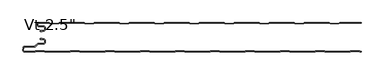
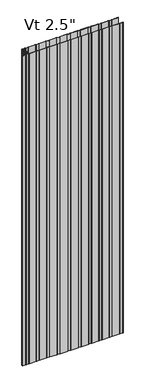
"""IFC4 building model written with IfcOpenShell, lengths in millimetres: plate geometry."""

from ifc_helpers import new_model, si_unit, point, frame, frame_2d, origin, origin_with_axes, place, context, project, spatial, polyline, circle_curve, trimmed, segment, composite_curve, outline, extrude, source, transform, mapped, element, save
from ifc_brep_helpers import plane_surface, cylinder_surface, revolved_surface, advanced_brep


def plate_cdc928b4(model_context):
    return source(origin(), model_context, "Body", "SolidModel", [
        advanced_brep(
        [(-346.968691, -17.0015202, 2400.0), (-347.9686883, -18.0015234, 2400.0), (-346.968691, -19.0015147, 2400.0), (-342.9684874, -19.0015147, 2400.0), (-342.9684874, -18.0015202, 2400.0), (-340.2762776, -18.0015202, 2400.0), (-336.9762819, -14.7015245, 2400.0), (-336.9762819, -10.3015333, 2400.0), (-340.2762774, -7.0015378, 2400.0), (-350.6962563, -7.0015378, 2400.0), (-352.4662505, -5.2315436, 2400.0), (-352.4662505, -0.9999959, 2400.0), (-327.9659738, -0.9999959, 2400.0), (-326.5803312, -2.200235, 2400.0), (-307.2051649, -2.200235, 2400.0), (-305.819532, -1.0000043, 2400.0), (-251.7661166, -1.0000043, 2400.0), (-250.3804836, -2.200235, 2400.0), (-231.0053173, -2.200235, 2400.0), (-229.6196844, -1.0000043, 2400.0), (-175.566269, -1.0000043, 2400.0), (-174.180636, -2.200235, 2400.0), (-154.8054697, -2.200235, 2400.0), (-153.4198368, -1.0000043, 2400.0), (-99.3664214, -1.0000043, 2400.0), (-97.9807884, -2.200235, 2400.0), (-78.6056221, -2.200235, 2400.0), (-77.2199892, -1.0000043, 2400.0), (-23.1665738, -1.0000043, 2400.0), (-21.7809408, -2.200235, 2400.0), (-2.4057745, -2.200235, 2400.0), (-1.0201416, -1.0000043, 2400.0), (53.0332738, -1.0000043, 2400.0), (54.4189068, -2.200235, 2400.0), (73.7940731, -2.200235, 2400.0), (75.179706, -1.0000043, 2400.0), (129.2331214, -1.0000043, 2400.0), (130.6187544, -2.200235, 2400.0), (149.9939207, -2.200235, 2400.0), (151.3795536, -1.0000043, 2400.0), (205.432969, -1.0000043, 2400.0), (206.818602, -2.200235, 2400.0), (226.1937683, -2.200235, 2400.0), (227.5794012, -1.0000043, 2400.0), (281.6328166, -1.0000043, 2400.0), (283.0184496, -2.200235, 2400.0), (302.3936159, -2.200235, 2400.0), (303.7792488, -1.0000043, 2400.0), (350.4999998, -1.0000043, 2400.0), (350.4999998, -4.3e-06, 2400.0), (303.9284, -4.3e-06, 2400.0), (303.0117831, -0.3417928, 2400.0), (302.0207355, -1.200235, 2400.0), (283.39133, -1.200235, 2400.0), (282.4002824, -0.3417928, 2400.0), (281.4836655, -4.3e-06, 2400.0), (227.7285524, -4.3e-06, 2400.0), (226.8119355, -0.3417928, 2400.0), (225.8208879, -1.200235, 2400.0), (207.1914824, -1.200235, 2400.0), (206.2004348, -0.3417928, 2400.0), (205.2838179, -4.3e-06, 2400.0), (151.5287048, -4.3e-06, 2400.0), (150.6120879, -0.3417928, 2400.0), (149.6210403, -1.200235, 2400.0), (130.9916348, -1.200235, 2400.0), (130.0005872, -0.3417928, 2400.0), (129.0839703, -4.3e-06, 2400.0), (75.3288572, -4.3e-06, 2400.0), (74.4122403, -0.3417928, 2400.0), (73.4211927, -1.200235, 2400.0), (54.7917872, -1.200235, 2400.0), (53.8007396, -0.3417928, 2400.0), (52.8841227, -4.3e-06, 2400.0), (-0.8709904, -4.3e-06, 2400.0), (-1.7876073, -0.3417928, 2400.0), (-2.7786549, -1.200235, 2400.0), (-21.4080604, -1.200235, 2400.0), (-22.399108, -0.3417928, 2400.0), (-23.3157249, -4.3e-06, 2400.0), (-77.070838, -4.3e-06, 2400.0), (-77.9874549, -0.3417928, 2400.0), (-78.9785025, -1.200235, 2400.0), (-97.607908, -1.200235, 2400.0), (-98.5989556, -0.3417928, 2400.0), (-99.5155725, -4.3e-06, 2400.0), (-153.2706856, -4.3e-06, 2400.0), (-154.1873025, -0.3417928, 2400.0), (-155.1783501, -1.200235, 2400.0), (-173.8077556, -1.200235, 2400.0), (-174.7988032, -0.3417928, 2400.0), (-175.7154201, -4.3e-06, 2400.0), (-229.4705332, -4.3e-06, 2400.0), (-230.3871501, -0.3417928, 2400.0), (-231.3781977, -1.200235, 2400.0), (-250.0076032, -1.200235, 2400.0), (-250.9986508, -0.3417928, 2400.0), (-251.9152677, -4.3e-06, 2400.0), (-305.6703808, -4.3e-06, 2400.0), (-306.5869977, -0.3417928, 2400.0), (-307.5780453, -1.200235, 2400.0), (-326.2074508, -1.200235, 2400.0), (-327.1984984, -0.3417928, 2400.0), (-328.1152067, -4.3e-06, 2400.0), (-352.0662543, 4.1e-06, 2400.0), (-353.4662505, -1.3999921, 2400.0), (-353.4662505, -5.2315436, 2400.0), (-350.6962563, -8.0015378, 2400.0), (-340.2762774, -8.0015378, 2400.0), (-337.9762819, -10.3015333, 2400.0), (-337.9762819, -14.7015245, 2400.0), (-340.2762776, -17.0015202, 2400.0), (-346.968691, -17.0015202, 0.0), (-340.2762776, -17.0015202, 0.0), (-337.9762819, -14.7015245, 0.0), (-337.9762819, -10.3015333, 0.0), (-340.2762774, -8.0015378, 0.0), (-350.6962563, -8.0015378, 0.0), (-353.4662505, -5.2315436, 0.0), (-353.4662505, -1.3999921, 0.0), (-352.0662543, 4.1e-06, 0.0), (-328.1151153, 4.1e-06, 0.0), (-327.1984984, -0.3417928, 0.0), (-326.2074508, -1.200235, 0.0), (-307.5780453, -1.200235, 0.0), (-306.5869977, -0.3417928, 0.0), (-305.6703808, -4.3e-06, 0.0), (-251.9152677, -4.3e-06, 0.0), (-250.9986508, -0.3417928, 0.0), (-250.0076032, -1.200235, 0.0), (-231.3781977, -1.200235, 0.0), (-230.3871501, -0.3417928, 0.0), (-229.4705332, -4.3e-06, 0.0), (-175.7154201, -4.3e-06, 0.0), (-174.7988032, -0.3417928, 0.0), (-173.8077556, -1.200235, 0.0), (-155.1783501, -1.200235, 0.0), (-154.1873025, -0.3417928, 0.0), (-153.2706856, -4.3e-06, 0.0), (-99.5155725, -4.3e-06, 0.0), (-98.5989556, -0.3417928, 0.0), (-97.607908, -1.200235, 0.0), (-78.9785025, -1.200235, 0.0), (-77.9874549, -0.3417928, 0.0), (-77.070838, -4.3e-06, 0.0), (-23.3157249, -4.3e-06, 0.0), (-22.399108, -0.3417928, 0.0), (-21.4080604, -1.200235, 0.0), (-2.7786549, -1.200235, 0.0), (-1.7876073, -0.3417928, 0.0), (-0.8709904, -4.3e-06, 0.0), (52.8841227, -4.3e-06, 0.0), (53.8007396, -0.3417928, 0.0), (54.7917872, -1.200235, 0.0), (73.4211927, -1.200235, 0.0), (74.4122403, -0.3417928, 0.0), (75.3288572, -4.3e-06, 0.0), (129.0839703, -4.3e-06, 0.0), (130.0005872, -0.3417928, 0.0), (130.9916348, -1.200235, 0.0), (149.6210403, -1.200235, 0.0), (150.6120879, -0.3417928, 0.0), (151.5287048, -4.3e-06, 0.0), (205.2838179, -4.3e-06, 0.0), (206.2004348, -0.3417928, 0.0), (207.1914824, -1.200235, 0.0), (225.8208879, -1.200235, 0.0), (226.8119355, -0.3417928, 0.0), (227.7285524, -4.3e-06, 0.0), (281.4836655, -4.3e-06, 0.0), (282.4002824, -0.3417928, 0.0), (283.39133, -1.200235, 0.0), (302.0207355, -1.200235, 0.0), (303.0117831, -0.3417928, 0.0), (303.9284, -4.3e-06, 0.0), (350.4999998, -4.3e-06, 0.0), (350.4999998, -1.0000043, 0.0), (303.7792488, -1.0000043, 0.0), (302.3936159, -2.200235, 0.0), (283.0184496, -2.200235, 0.0), (281.6328166, -1.0000043, 0.0), (227.5794012, -1.0000043, 0.0), (226.1937683, -2.200235, 0.0), (206.818602, -2.200235, 0.0), (205.432969, -1.0000043, 0.0), (151.3795536, -1.0000043, 0.0), (149.9939207, -2.200235, 0.0), (130.6187544, -2.200235, 0.0), (129.2331214, -1.0000043, 0.0), (75.179706, -1.0000043, 0.0), (73.7940731, -2.200235, 0.0), (54.4189068, -2.200235, 0.0), (53.0332738, -1.0000043, 0.0), (-1.0201416, -1.0000043, 0.0), (-2.4057745, -2.200235, 0.0), (-21.7809408, -2.200235, 0.0), (-23.1665738, -1.0000043, 0.0), (-77.2199892, -1.0000043, 0.0), (-78.6056221, -2.200235, 0.0), (-97.9807884, -2.200235, 0.0), (-99.3664214, -1.0000043, 0.0), (-153.4198368, -1.0000043, 0.0), (-154.8054697, -2.200235, 0.0), (-174.180636, -2.200235, 0.0), (-175.566269, -1.0000043, 0.0), (-229.6196844, -1.0000043, 0.0), (-231.0053173, -2.200235, 0.0), (-250.3804836, -2.200235, 0.0), (-251.7661166, -1.0000043, 0.0), (-305.819532, -1.0000043, 0.0), (-307.2051649, -2.200235, 0.0), (-326.5803312, -2.200235, 0.0), (-327.9659738, -0.9999959, 0.0), (-352.4662505, -0.9999959, 0.0), (-352.4662505, -5.2315436, 0.0), (-350.6962563, -7.0015378, 0.0), (-340.2762774, -7.0015378, 0.0), (-336.9762819, -10.3015333, 0.0), (-336.9762819, -14.7015245, 0.0), (-340.2762776, -18.0015202, 0.0), (-342.9684874, -18.0015202, 0.0), (-342.9684874, -19.0015147, 0.0), (-346.968691, -19.0015147, 0.0), (-347.9686882, -18.0015235, 0.0)],
        [
            (0, 1, circle_curve(frame((-346.968691, -18.0015175, 2400.0), z_axis=(0.0, 0.0, 1.0), x_axis=(1.0, 0.0, 0.0)), 0.9999973)),
            (1, 2, circle_curve(frame((-346.968691, -18.0015175, 2400.0), z_axis=(0.0, 0.0, 1.0), x_axis=(1.0, 0.0, 0.0)), 0.9999972)),
            (2, 3),
            (3, 4),
            (4, 5),
            (5, 6, circle_curve(frame((-340.2762776, -14.7015245, 2400.0), z_axis=(0.0, 0.0, 1.0), x_axis=(1.0, 0.0, 0.0)), 3.2999957)),
            (6, 7),
            (7, 8, circle_curve(frame((-340.2762774, -10.3015333, 2400.0), z_axis=(0.0, 0.0, 1.0), x_axis=(1.0, 0.0, 0.0)), 3.2999955)),
            (8, 9),
            (9, 10, circle_curve(frame((-350.6962563, -5.2315436, 2400.0), z_axis=(0.0, 0.0, -1.0), x_axis=(1.0, 0.0, 0.0)), 1.7699942)),
            (10, 11),
            (11, 12),
            (12, 13),
            (13, 14),
            (14, 15),
            (15, 16),
            (16, 17),
            (17, 18),
            (18, 19),
            (19, 20),
            (20, 21),
            (21, 22),
            (22, 23),
            (23, 24),
            (24, 25),
            (25, 26),
            (26, 27),
            (27, 28),
            (28, 29),
            (29, 30),
            (30, 31),
            (31, 32),
            (32, 33),
            (33, 34),
            (34, 35),
            (35, 36),
            (36, 37),
            (37, 38),
            (38, 39),
            (39, 40),
            (40, 41),
            (41, 42),
            (42, 43),
            (43, 44),
            (44, 45),
            (45, 46),
            (46, 47),
            (47, 48),
            (48, 49),
            (49, 50),
            (50, 51, circle_curve(frame((303.9284, -1.4000015, 2400.0), z_axis=(0.0, 0.0, 1.0), x_axis=(1.0, 0.0, 0.0)), 1.3999972)),
            (51, 52),
            (52, 53),
            (53, 54),
            (54, 55, circle_curve(frame((281.4836655, -1.4000015, 2400.0), z_axis=(0.0, 0.0, 1.0), x_axis=(1.0, 0.0, 0.0)), 1.3999972)),
            (55, 56),
            (56, 57, circle_curve(frame((227.7285524, -1.4000015, 2400.0), z_axis=(0.0, 0.0, 1.0), x_axis=(1.0, 0.0, 0.0)), 1.3999972)),
            (57, 58),
            (58, 59),
            (59, 60),
            (60, 61, circle_curve(frame((205.2838179, -1.4000015, 2400.0), z_axis=(0.0, 0.0, 1.0), x_axis=(1.0, 0.0, 0.0)), 1.3999972)),
            (61, 62),
            (62, 63, circle_curve(frame((151.5287048, -1.4000015, 2400.0), z_axis=(0.0, 0.0, 1.0), x_axis=(1.0, 0.0, 0.0)), 1.3999972)),
            (63, 64),
            (64, 65),
            (65, 66),
            (66, 67, circle_curve(frame((129.0839703, -1.4000015, 2400.0), z_axis=(0.0, 0.0, 1.0), x_axis=(1.0, 0.0, 0.0)), 1.3999972)),
            (67, 68),
            (68, 69, circle_curve(frame((75.3288572, -1.4000015, 2400.0), z_axis=(0.0, 0.0, 1.0), x_axis=(1.0, 0.0, 0.0)), 1.3999972)),
            (69, 70),
            (70, 71),
            (71, 72),
            (72, 73, circle_curve(frame((52.8841227, -1.4000015, 2400.0), z_axis=(0.0, 0.0, 1.0), x_axis=(1.0, 0.0, 0.0)), 1.3999972)),
            (73, 74),
            (74, 75, circle_curve(frame((-0.8709904, -1.4000015, 2400.0), z_axis=(0.0, 0.0, 1.0), x_axis=(1.0, 0.0, 0.0)), 1.3999972)),
            (75, 76),
            (76, 77),
            (77, 78),
            (78, 79, circle_curve(frame((-23.3157249, -1.4000015, 2400.0), z_axis=(0.0, 0.0, 1.0), x_axis=(1.0, 0.0, 0.0)), 1.3999972)),
            (79, 80),
            (80, 81, circle_curve(frame((-77.070838, -1.4000015, 2400.0), z_axis=(0.0, 0.0, 1.0), x_axis=(1.0, 0.0, 0.0)), 1.3999972)),
            (81, 82),
            (82, 83),
            (83, 84),
            (84, 85, circle_curve(frame((-99.5155725, -1.4000015, 2400.0), z_axis=(0.0, 0.0, 1.0), x_axis=(1.0, 0.0, 0.0)), 1.3999972)),
            (85, 86),
            (86, 87, circle_curve(frame((-153.2706856, -1.4000015, 2400.0), z_axis=(0.0, 0.0, 1.0), x_axis=(1.0, 0.0, 0.0)), 1.3999972)),
            (87, 88),
            (88, 89),
            (89, 90),
            (90, 91, circle_curve(frame((-175.7154201, -1.4000015, 2400.0), z_axis=(0.0, 0.0, 1.0), x_axis=(1.0, 0.0, 0.0)), 1.3999972)),
            (91, 92),
            (92, 93, circle_curve(frame((-229.4705332, -1.4000015, 2400.0), z_axis=(0.0, 0.0, 1.0), x_axis=(1.0, 0.0, 0.0)), 1.3999972)),
            (93, 94),
            (94, 95),
            (95, 96),
            (96, 97, circle_curve(frame((-251.9152677, -1.4000015, 2400.0), z_axis=(0.0, 0.0, 1.0), x_axis=(1.0, 0.0, 0.0)), 1.3999972)),
            (97, 98),
            (98, 99, circle_curve(frame((-305.6703808, -1.4000015, 2400.0), z_axis=(0.0, 0.0, 1.0), x_axis=(1.0, 0.0, 0.0)), 1.3999972)),
            (99, 100),
            (100, 101),
            (101, 102),
            (102, 103, circle_curve(frame((-328.1151153, -1.4000015, 2400.0), z_axis=(0.0, 0.0, 1.0), x_axis=(1.0, 0.0, 0.0)), 1.3999972)),
            (103, 104),
            (104, 105, circle_curve(frame((-352.0662543, -1.3999921, 2400.0), z_axis=(0.0, 0.0, 1.0), x_axis=(1.0, 0.0, 0.0)), 1.3999962)),
            (105, 106),
            (106, 107, circle_curve(frame((-350.6962563, -5.2315436, 2400.0), z_axis=(0.0, 0.0, 1.0), x_axis=(1.0, 0.0, 0.0)), 2.7699942)),
            (107, 108),
            (108, 109, circle_curve(frame((-340.2762774, -10.3015333, 2400.0), z_axis=(0.0, 0.0, -1.0), x_axis=(1.0, 0.0, 0.0)), 2.2999955)),
            (109, 110),
            (110, 111, circle_curve(frame((-340.2762776, -14.7015245, 2400.0), z_axis=(0.0, 0.0, -1.0), x_axis=(1.0, 0.0, 0.0)), 2.2999957)),
            (111, 0),
            (112, 113),
            (113, 114, circle_curve(frame((-340.2762776, -14.7015245, 0.0), z_axis=(0.0, 0.0, 1.0), x_axis=(1.0, 0.0, 0.0)), 2.2999957)),
            (114, 115),
            (115, 116, circle_curve(frame((-340.2762774, -10.3015333, 0.0), z_axis=(0.0, 0.0, 1.0), x_axis=(1.0, 0.0, 0.0)), 2.2999955)),
            (116, 117),
            (117, 118, circle_curve(frame((-350.6962563, -5.2315436, 0.0), z_axis=(0.0, 0.0, -1.0), x_axis=(1.0, 0.0, 0.0)), 2.7699942)),
            (118, 119),
            (119, 120, circle_curve(frame((-352.0662543, -1.3999921, 0.0), z_axis=(0.0, 0.0, -1.0), x_axis=(1.0, 0.0, 0.0)), 1.3999962)),
            (120, 121),
            (121, 122, circle_curve(frame((-328.1151153, -1.4000015, 0.0), z_axis=(0.0, 0.0, -1.0), x_axis=(1.0, 0.0, 0.0)), 1.3999972)),
            (122, 123),
            (123, 124),
            (124, 125),
            (125, 126, circle_curve(frame((-305.6703808, -1.4000015, 0.0), z_axis=(0.0, 0.0, -1.0), x_axis=(1.0, 0.0, 0.0)), 1.3999972)),
            (126, 127),
            (127, 128, circle_curve(frame((-251.9152677, -1.4000015, 0.0), z_axis=(0.0, 0.0, -1.0), x_axis=(1.0, 0.0, 0.0)), 1.3999972)),
            (128, 129),
            (129, 130),
            (130, 131),
            (131, 132, circle_curve(frame((-229.4705332, -1.4000015, 0.0), z_axis=(0.0, 0.0, -1.0), x_axis=(1.0, 0.0, 0.0)), 1.3999972)),
            (132, 133),
            (133, 134, circle_curve(frame((-175.7154201, -1.4000015, 0.0), z_axis=(0.0, 0.0, -1.0), x_axis=(1.0, 0.0, 0.0)), 1.3999972)),
            (134, 135),
            (135, 136),
            (136, 137),
            (137, 138, circle_curve(frame((-153.2706856, -1.4000015, 0.0), z_axis=(0.0, 0.0, -1.0), x_axis=(1.0, 0.0, 0.0)), 1.3999972)),
            (138, 139),
            (139, 140, circle_curve(frame((-99.5155725, -1.4000015, 0.0), z_axis=(0.0, 0.0, -1.0), x_axis=(1.0, 0.0, 0.0)), 1.3999972)),
            (140, 141),
            (141, 142),
            (142, 143),
            (143, 144, circle_curve(frame((-77.070838, -1.4000015, 0.0), z_axis=(0.0, 0.0, -1.0), x_axis=(1.0, 0.0, 0.0)), 1.3999972)),
            (144, 145),
            (145, 146, circle_curve(frame((-23.3157249, -1.4000015, 0.0), z_axis=(0.0, 0.0, -1.0), x_axis=(1.0, 0.0, 0.0)), 1.3999972)),
            (146, 147),
            (147, 148),
            (148, 149),
            (149, 150, circle_curve(frame((-0.8709904, -1.4000015, 0.0), z_axis=(0.0, 0.0, -1.0), x_axis=(1.0, 0.0, 0.0)), 1.3999972)),
            (150, 151),
            (151, 152, circle_curve(frame((52.8841227, -1.4000015, 0.0), z_axis=(0.0, 0.0, -1.0), x_axis=(1.0, 0.0, 0.0)), 1.3999972)),
            (152, 153),
            (153, 154),
            (154, 155),
            (155, 156, circle_curve(frame((75.3288572, -1.4000015, 0.0), z_axis=(0.0, 0.0, -1.0), x_axis=(1.0, 0.0, 0.0)), 1.3999972)),
            (156, 157),
            (157, 158, circle_curve(frame((129.0839703, -1.4000015, 0.0), z_axis=(0.0, 0.0, -1.0), x_axis=(1.0, 0.0, 0.0)), 1.3999972)),
            (158, 159),
            (159, 160),
            (160, 161),
            (161, 162, circle_curve(frame((151.5287048, -1.4000015, 0.0), z_axis=(0.0, 0.0, -1.0), x_axis=(1.0, 0.0, 0.0)), 1.3999972)),
            (162, 163),
            (163, 164, circle_curve(frame((205.2838179, -1.4000015, 0.0), z_axis=(0.0, 0.0, -1.0), x_axis=(1.0, 0.0, 0.0)), 1.3999972)),
            (164, 165),
            (165, 166),
            (166, 167),
            (167, 168, circle_curve(frame((227.7285524, -1.4000015, 0.0), z_axis=(0.0, 0.0, -1.0), x_axis=(1.0, 0.0, 0.0)), 1.3999972)),
            (168, 169),
            (169, 170, circle_curve(frame((281.4836655, -1.4000015, 0.0), z_axis=(0.0, 0.0, -1.0), x_axis=(1.0, 0.0, 0.0)), 1.3999972)),
            (170, 171),
            (171, 172),
            (172, 173),
            (173, 174, circle_curve(frame((303.9284, -1.4000015, 0.0), z_axis=(0.0, 0.0, -1.0), x_axis=(1.0, 0.0, 0.0)), 1.3999972)),
            (174, 175),
            (175, 176),
            (176, 177),
            (177, 178),
            (178, 179),
            (179, 180),
            (180, 181),
            (181, 182),
            (182, 183),
            (183, 184),
            (184, 185),
            (185, 186),
            (186, 187),
            (187, 188),
            (188, 189),
            (189, 190),
            (190, 191),
            (191, 192),
            (192, 193),
            (193, 194),
            (194, 195),
            (195, 196),
            (196, 197),
            (197, 198),
            (198, 199),
            (199, 200),
            (200, 201),
            (201, 202),
            (202, 203),
            (203, 204),
            (204, 205),
            (205, 206),
            (206, 207),
            (207, 208),
            (208, 209),
            (209, 210),
            (210, 211),
            (211, 212),
            (212, 213),
            (213, 214),
            (214, 215, circle_curve(frame((-350.6962563, -5.2315436, 0.0), z_axis=(0.0, 0.0, 1.0), x_axis=(1.0, 0.0, 0.0)), 1.7699942)),
            (215, 216),
            (216, 217, circle_curve(frame((-340.2762774, -10.3015333, 0.0), z_axis=(0.0, 0.0, -1.0), x_axis=(1.0, 0.0, 0.0)), 3.2999955)),
            (217, 218),
            (218, 219, circle_curve(frame((-340.2762776, -14.7015245, 0.0), z_axis=(0.0, 0.0, -1.0), x_axis=(1.0, 0.0, 0.0)), 3.2999957)),
            (219, 220),
            (220, 221),
            (221, 222),
            (222, 223, circle_curve(frame((-346.968691, -18.0015175, 0.0), z_axis=(0.0, 0.0, -1.0), x_axis=(1.0, 0.0, 0.0)), 0.9999972)),
            (223, 112, circle_curve(frame((-346.968691, -18.0015175, 0.0), z_axis=(0.0, 0.0, -1.0), x_axis=(1.0, 0.0, 0.0)), 0.9999973)),
            (111, 113),
            (112, 0),
            (110, 114),
            (109, 115),
            (108, 116),
            (107, 117),
            (106, 118),
            (105, 119),
            (104, 120),
            (103, 121),
            (102, 122),
            (101, 123),
            (100, 124),
            (99, 125),
            (98, 126),
            (97, 127),
            (96, 128),
            (95, 129),
            (94, 130),
            (93, 131),
            (92, 132),
            (91, 133),
            (90, 134),
            (89, 135),
            (88, 136),
            (87, 137),
            (86, 138),
            (85, 139),
            (84, 140),
            (83, 141),
            (82, 142),
            (81, 143),
            (80, 144),
            (79, 145),
            (78, 146),
            (77, 147),
            (76, 148),
            (75, 149),
            (74, 150),
            (73, 151),
            (72, 152),
            (71, 153),
            (70, 154),
            (69, 155),
            (68, 156),
            (67, 157),
            (66, 158),
            (65, 159),
            (64, 160),
            (63, 161),
            (62, 162),
            (61, 163),
            (39, 185),
            (184, 40),
            (38, 186),
            (37, 187),
            (36, 188),
            (35, 189),
            (34, 190),
            (33, 191),
            (32, 192),
            (31, 193),
            (30, 194),
            (29, 195),
            (28, 196),
            (27, 197),
            (26, 198),
            (25, 199),
            (24, 200),
            (23, 201),
            (22, 202),
            (21, 203),
            (20, 204),
            (19, 205),
            (18, 206),
            (17, 207),
            (16, 208),
            (15, 209),
            (14, 210),
            (13, 211),
            (12, 212),
            (11, 213),
            (10, 214),
            (9, 215),
            (8, 216),
            (7, 217),
            (6, 218),
            (5, 219),
            (4, 220),
            (3, 221),
            (2, 222),
            (1, 223),
            (48, 176),
            (175, 49),
            (60, 164),
            (59, 165),
            (58, 166),
            (57, 167),
            (56, 168),
            (55, 169),
            (54, 170),
            (53, 171),
            (52, 172),
            (51, 173),
            (50, 174),
            (47, 177),
            (46, 178),
            (45, 179),
            (44, 180),
            (43, 181),
            (42, 182),
            (41, 183),
        ],
        [
            plane_surface(frame((32.0000002, -4.3e-06, 2400.0), z_axis=(0.0, 0.0, 1.0), x_axis=(0.0, 1.0, 0.0))),
            plane_surface(frame((32.0000002, -4.3e-06, 0.0), z_axis=(0.0, 0.0, -1.0), x_axis=(0.0, 1.0, 0.0))),
            plane_surface(frame((-346.968691, -17.0015202, 2400.0), z_axis=(0.0, 1.0, 0.0), x_axis=(0.0, 0.0, -1.0))),
            revolved_surface(polyline([(-337.9762819, -14.7015245, 0.0), (-337.9762819, -14.7015245, 2400.0)]), (-340.2762776, -14.7015245, 2400.0), (0.0, 0.0, -1.0)),
            plane_surface(frame((-337.9762819, -14.7015245, 2400.0), z_axis=(-1.0, 0.0, 0.0), x_axis=(0.0, 0.0, -1.0))),
            revolved_surface(polyline([(-337.9762819, -10.3015333, 0.0), (-337.9762819, -10.3015333, 2400.0)]), (-340.2762774, -10.3015333, 2400.0), (0.0, 0.0, -1.0)),
            plane_surface(frame((-340.2762774, -8.0015378, 2400.0), z_axis=(0.0, -1.0, 0.0), x_axis=(0.0, 0.0, -1.0))),
            cylinder_surface(frame((-350.6962563, -5.2315436, 2400.0), z_axis=(0.0, 0.0, 1.0), x_axis=(1.0, 0.0, 0.0)), 2.7699942),
            plane_surface(frame((-353.4662505, -5.2315436, 2400.0), z_axis=(-1.0, 0.0, 0.0), x_axis=(0.0, 0.0, -1.0))),
            cylinder_surface(frame((-352.0662543, -1.3999921, 2400.0), z_axis=(0.0, 0.0, 1.0), x_axis=(1.0, 0.0, 0.0)), 1.3999962),
            plane_surface(frame((-352.0662543, 4.1e-06, 2400.0), z_axis=(0.0, 1.0, 0.0), x_axis=(0.0, 0.0, -1.0))),
            cylinder_surface(frame((-328.1151153, -1.4000015, 2400.0), z_axis=(0.0, 0.0, 1.0), x_axis=(1.0, 0.0, 0.0)), 1.3999972),
            plane_surface(frame((-327.1984984, -0.3417928, 2400.0), z_axis=(0.6547276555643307, 0.7558648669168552, 0.0), x_axis=(0.0, 0.0, -1.0))),
            plane_surface(frame((-316.8927481, -1.200235, 2400.0), z_axis=(0.0, 1.0, 0.0), x_axis=(0.0, 0.0, -1.0))),
            plane_surface(frame((-307.5780453, -1.200235, 2400.0), z_axis=(-0.6547276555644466, 0.7558648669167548, 0.0), x_axis=(0.0, 0.0, -1.0))),
            cylinder_surface(frame((-305.6703808, -1.4000015, 2400.0), z_axis=(0.0, 0.0, 1.0), x_axis=(1.0, 0.0, 0.0)), 1.3999972),
            plane_surface(frame((-305.6703808, -4.3e-06, 2400.0), z_axis=(0.0, 1.0, 0.0), x_axis=(0.0, 0.0, -1.0))),
            cylinder_surface(frame((-251.9152677, -1.4000015, 2400.0), z_axis=(0.0, 0.0, 1.0), x_axis=(1.0, 0.0, 0.0)), 1.3999972),
            plane_surface(frame((-250.9986508, -0.3417928, 2400.0), z_axis=(0.6547276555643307, 0.7558648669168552, 0.0), x_axis=(0.0, 0.0, -1.0))),
            plane_surface(frame((-240.6929005, -1.200235, 2400.0), z_axis=(0.0, 1.0, 0.0), x_axis=(0.0, 0.0, -1.0))),
            plane_surface(frame((-231.3781977, -1.200235, 2400.0), z_axis=(-0.6547276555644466, 0.7558648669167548, 0.0), x_axis=(0.0, 0.0, -1.0))),
            cylinder_surface(frame((-229.4705332, -1.4000015, 2400.0), z_axis=(0.0, 0.0, 1.0), x_axis=(1.0, 0.0, 0.0)), 1.3999972),
            plane_surface(frame((-229.4705332, -4.3e-06, 2400.0), z_axis=(0.0, 1.0, 0.0), x_axis=(0.0, 0.0, -1.0))),
            cylinder_surface(frame((-175.7154201, -1.4000015, 2400.0), z_axis=(0.0, 0.0, 1.0), x_axis=(1.0, 0.0, 0.0)), 1.3999972),
            plane_surface(frame((-174.7988032, -0.3417928, 2400.0), z_axis=(0.6547276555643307, 0.7558648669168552, 0.0), x_axis=(0.0, 0.0, -1.0))),
            plane_surface(frame((-164.4930529, -1.200235, 2400.0), z_axis=(0.0, 1.0, 0.0), x_axis=(0.0, 0.0, -1.0))),
            plane_surface(frame((-155.1783501, -1.200235, 2400.0), z_axis=(-0.6547276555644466, 0.7558648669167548, 0.0), x_axis=(0.0, 0.0, -1.0))),
            cylinder_surface(frame((-153.2706856, -1.4000015, 2400.0), z_axis=(0.0, 0.0, 1.0), x_axis=(1.0, 0.0, 0.0)), 1.3999972),
            plane_surface(frame((-153.2706856, -4.3e-06, 2400.0), z_axis=(0.0, 1.0, 0.0), x_axis=(0.0, 0.0, -1.0))),
            cylinder_surface(frame((-99.5155725, -1.4000015, 2400.0), z_axis=(0.0, 0.0, 1.0), x_axis=(1.0, 0.0, 0.0)), 1.3999972),
            plane_surface(frame((-98.5989556, -0.3417928, 2400.0), z_axis=(0.6547276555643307, 0.7558648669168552, 0.0), x_axis=(0.0, 0.0, -1.0))),
            plane_surface(frame((-88.2932053, -1.200235, 2400.0), z_axis=(0.0, 1.0, 0.0), x_axis=(0.0, 0.0, -1.0))),
            plane_surface(frame((-78.9785025, -1.200235, 2400.0), z_axis=(-0.6547276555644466, 0.7558648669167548, 0.0), x_axis=(0.0, 0.0, -1.0))),
            cylinder_surface(frame((-77.070838, -1.4000015, 2400.0), z_axis=(0.0, 0.0, 1.0), x_axis=(1.0, 0.0, 0.0)), 1.3999972),
            plane_surface(frame((-77.070838, -4.3e-06, 2400.0), z_axis=(0.0, 1.0, 0.0), x_axis=(0.0, 0.0, -1.0))),
            cylinder_surface(frame((-23.3157249, -1.4000015, 2400.0), z_axis=(0.0, 0.0, 1.0), x_axis=(1.0, 0.0, 0.0)), 1.3999972),
            plane_surface(frame((-22.399108, -0.3417928, 2400.0), z_axis=(0.6547276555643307, 0.7558648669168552, 0.0), x_axis=(0.0, 0.0, -1.0))),
            plane_surface(frame((-12.0933577, -1.200235, 2400.0), z_axis=(0.0, 1.0, 0.0), x_axis=(0.0, 0.0, -1.0))),
            plane_surface(frame((-2.7786549, -1.200235, 2400.0), z_axis=(-0.6547276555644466, 0.7558648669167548, 0.0), x_axis=(0.0, 0.0, -1.0))),
            cylinder_surface(frame((-0.8709904, -1.4000015, 2400.0), z_axis=(0.0, 0.0, 1.0), x_axis=(1.0, 0.0, 0.0)), 1.3999972),
            plane_surface(frame((-0.8709904, -4.3e-06, 2400.0), z_axis=(0.0, 1.0, 0.0), x_axis=(0.0, 0.0, -1.0))),
            cylinder_surface(frame((52.8841227, -1.4000015, 2400.0), z_axis=(0.0, 0.0, 1.0), x_axis=(1.0, 0.0, 0.0)), 1.3999972),
            plane_surface(frame((53.8007396, -0.3417928, 2400.0), z_axis=(0.6547276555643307, 0.7558648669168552, 0.0), x_axis=(0.0, 0.0, -1.0))),
            plane_surface(frame((64.1064899, -1.200235, 2400.0), z_axis=(0.0, 1.0, 0.0), x_axis=(0.0, 0.0, -1.0))),
            plane_surface(frame((73.4211927, -1.200235, 2400.0), z_axis=(-0.6547276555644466, 0.7558648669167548, 0.0), x_axis=(0.0, 0.0, -1.0))),
            cylinder_surface(frame((75.3288572, -1.4000015, 2400.0), z_axis=(0.0, 0.0, 1.0), x_axis=(1.0, 0.0, 0.0)), 1.3999972),
            plane_surface(frame((75.3288572, -4.3e-06, 2400.0), z_axis=(0.0, 1.0, 0.0), x_axis=(0.0, 0.0, -1.0))),
            cylinder_surface(frame((129.0839703, -1.4000015, 2400.0), z_axis=(0.0, 0.0, 1.0), x_axis=(1.0, 0.0, 0.0)), 1.3999972),
            plane_surface(frame((130.0005872, -0.3417928, 2400.0), z_axis=(0.6547276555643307, 0.7558648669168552, 0.0), x_axis=(0.0, 0.0, -1.0))),
            plane_surface(frame((140.3063375, -1.200235, 2400.0), z_axis=(0.0, 1.0, 0.0), x_axis=(0.0, 0.0, -1.0))),
            plane_surface(frame((149.6210403, -1.200235, 2400.0), z_axis=(-0.6547276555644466, 0.7558648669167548, 0.0), x_axis=(0.0, 0.0, -1.0))),
            cylinder_surface(frame((151.5287048, -1.4000015, 2400.0), z_axis=(0.0, 0.0, 1.0), x_axis=(1.0, 0.0, 0.0)), 1.3999972),
            plane_surface(frame((151.5287048, -4.3e-06, 2400.0), z_axis=(0.0, 1.0, 0.0), x_axis=(0.0, 0.0, -1.0))),
            plane_surface(frame((205.432969, -1.0000043, 2400.0), z_axis=(0.0, -1.0, 0.0), x_axis=(0.0, 0.0, -1.0))),
            plane_surface(frame((151.3795536, -1.0000043, 2400.0), z_axis=(0.6547276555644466, -0.7558648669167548, 0.0), x_axis=(0.0, 0.0, -1.0))),
            plane_surface(frame((149.9939207, -2.200235, 2400.0), z_axis=(0.0, -1.0, 0.0), x_axis=(0.0, 0.0, -1.0))),
            plane_surface(frame((130.6187544, -2.200235, 2400.0), z_axis=(-0.6547276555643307, -0.7558648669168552, 0.0), x_axis=(0.0, 0.0, -1.0))),
            plane_surface(frame((129.2331214, -1.0000043, 2400.0), z_axis=(0.0, -1.0, 0.0), x_axis=(0.0, 0.0, -1.0))),
            plane_surface(frame((75.179706, -1.0000043, 2400.0), z_axis=(0.6547276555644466, -0.7558648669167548, 0.0), x_axis=(0.0, 0.0, -1.0))),
            plane_surface(frame((73.7940731, -2.200235, 2400.0), z_axis=(0.0, -1.0, 0.0), x_axis=(0.0, 0.0, -1.0))),
            plane_surface(frame((54.4189068, -2.200235, 2400.0), z_axis=(-0.6547276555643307, -0.7558648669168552, 0.0), x_axis=(0.0, 0.0, -1.0))),
            plane_surface(frame((53.0332738, -1.0000043, 2400.0), z_axis=(0.0, -1.0, 0.0), x_axis=(0.0, 0.0, -1.0))),
            plane_surface(frame((-1.0201416, -1.0000043, 2400.0), z_axis=(0.6547276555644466, -0.7558648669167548, 0.0), x_axis=(0.0, 0.0, -1.0))),
            plane_surface(frame((-2.4057745, -2.200235, 2400.0), z_axis=(0.0, -1.0, 0.0), x_axis=(0.0, 0.0, -1.0))),
            plane_surface(frame((-21.7809408, -2.200235, 2400.0), z_axis=(-0.6547276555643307, -0.7558648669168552, 0.0), x_axis=(0.0, 0.0, -1.0))),
            plane_surface(frame((-23.1665738, -1.0000043, 2400.0), z_axis=(0.0, -1.0, 0.0), x_axis=(0.0, 0.0, -1.0))),
            plane_surface(frame((-77.2199892, -1.0000043, 2400.0), z_axis=(0.6547276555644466, -0.7558648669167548, 0.0), x_axis=(0.0, 0.0, -1.0))),
            plane_surface(frame((-78.6056221, -2.200235, 2400.0), z_axis=(0.0, -1.0, 0.0), x_axis=(0.0, 0.0, -1.0))),
            plane_surface(frame((-97.9807884, -2.200235, 2400.0), z_axis=(-0.6547276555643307, -0.7558648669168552, 0.0), x_axis=(0.0, 0.0, -1.0))),
            plane_surface(frame((-99.3664214, -1.0000043, 2400.0), z_axis=(0.0, -1.0, 0.0), x_axis=(0.0, 0.0, -1.0))),
            plane_surface(frame((-153.4198368, -1.0000043, 2400.0), z_axis=(0.6547276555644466, -0.7558648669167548, 0.0), x_axis=(0.0, 0.0, -1.0))),
            plane_surface(frame((-154.8054697, -2.200235, 2400.0), z_axis=(0.0, -1.0, 0.0), x_axis=(0.0, 0.0, -1.0))),
            plane_surface(frame((-174.180636, -2.200235, 2400.0), z_axis=(-0.6547276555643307, -0.7558648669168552, 0.0), x_axis=(0.0, 0.0, -1.0))),
            plane_surface(frame((-175.566269, -1.0000043, 2400.0), z_axis=(0.0, -1.0, 0.0), x_axis=(0.0, 0.0, -1.0))),
            plane_surface(frame((-229.6196844, -1.0000043, 2400.0), z_axis=(0.6547276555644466, -0.7558648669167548, 0.0), x_axis=(0.0, 0.0, -1.0))),
            plane_surface(frame((-231.0053173, -2.200235, 2400.0), z_axis=(0.0, -1.0, 0.0), x_axis=(0.0, 0.0, -1.0))),
            plane_surface(frame((-250.3804836, -2.200235, 2400.0), z_axis=(-0.6547276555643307, -0.7558648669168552, 0.0), x_axis=(0.0, 0.0, -1.0))),
            plane_surface(frame((-251.7661166, -1.0000043, 2400.0), z_axis=(0.0, -1.0, 0.0), x_axis=(0.0, 0.0, -1.0))),
            plane_surface(frame((-305.819532, -1.0000043, 2400.0), z_axis=(0.6547276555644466, -0.7558648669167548, 0.0), x_axis=(0.0, 0.0, -1.0))),
            plane_surface(frame((-307.2051649, -2.200235, 2400.0), z_axis=(0.0, -1.0, 0.0), x_axis=(0.0, 0.0, -1.0))),
            plane_surface(frame((-326.5803312, -2.200235, 2400.0), z_axis=(-0.6547276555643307, -0.7558648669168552, 0.0), x_axis=(0.0, 0.0, -1.0))),
            plane_surface(frame((-327.9659738, -0.9999959, 2400.0), z_axis=(0.0, -1.0, 0.0), x_axis=(0.0, 0.0, -1.0))),
            plane_surface(frame((-352.4662505, -0.9999959, 2400.0), z_axis=(1.0, 0.0, 0.0), x_axis=(0.0, 0.0, -1.0))),
            revolved_surface(polyline([(-348.92626210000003, -5.2315436, 0.0), (-348.92626210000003, -5.2315436, 2400.0)]), (-350.6962563, -5.2315436, 2400.0), (0.0, 0.0, -1.0)),
            plane_surface(frame((-350.6962563, -7.0015378, 2400.0), z_axis=(0.0, 1.0, 0.0), x_axis=(0.0, 0.0, -1.0))),
            cylinder_surface(frame((-340.2762774, -10.3015333, 2400.0), z_axis=(0.0, 0.0, 1.0), x_axis=(1.0, 0.0, 0.0)), 3.2999955),
            plane_surface(frame((-336.9762819, -10.3015333, 2400.0), z_axis=(1.0, 0.0, 0.0), x_axis=(0.0, 0.0, -1.0))),
            cylinder_surface(frame((-340.2762776, -14.7015245, 2400.0), z_axis=(0.0, 0.0, 1.0), x_axis=(1.0, 0.0, 0.0)), 3.2999957),
            plane_surface(frame((-340.2762776, -18.0015202, 2400.0), z_axis=(0.0, -1.0, 0.0), x_axis=(0.0, 0.0, -1.0))),
            plane_surface(frame((-342.9684874, -18.0015202, 2400.0), z_axis=(1.0, 0.0, 0.0), x_axis=(0.0, 0.0, -1.0))),
            plane_surface(frame((-342.9684874, -19.0015147, 2400.0), z_axis=(0.0, -1.0, 0.0), x_axis=(0.0, 0.0, -1.0))),
            cylinder_surface(frame((-346.968691, -18.0015175, 2400.0), z_axis=(0.0, 0.0, 1.0), x_axis=(1.0, 0.0, 0.0)), 0.9999972),
            cylinder_surface(frame((-346.968691, -18.0015175, 2400.0), z_axis=(0.0, 0.0, 1.0), x_axis=(1.0, 0.0, 0.0)), 0.9999973),
            plane_surface(frame((350.4999998, -73.5000043, 2400.0), z_axis=(1.0, 0.0, 0.0), x_axis=(0.0, 0.0, -1.0))),
            cylinder_surface(frame((205.2838179, -1.4000015, 2400.0), z_axis=(0.0, 0.0, 1.0), x_axis=(1.0, 0.0, 0.0)), 1.3999972),
            plane_surface(frame((206.2004348, -0.3417928, 2400.0), z_axis=(0.6547276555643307, 0.7558648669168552, 0.0), x_axis=(0.0, 0.0, -1.0))),
            plane_surface(frame((216.5061851, -1.200235, 2400.0), z_axis=(0.0, 1.0, 0.0), x_axis=(0.0, 0.0, -1.0))),
            plane_surface(frame((225.8208879, -1.200235, 2400.0), z_axis=(-0.6547276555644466, 0.7558648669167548, 0.0), x_axis=(0.0, 0.0, -1.0))),
            cylinder_surface(frame((227.7285524, -1.4000015, 2400.0), z_axis=(0.0, 0.0, 1.0), x_axis=(1.0, 0.0, 0.0)), 1.3999972),
            plane_surface(frame((227.7285524, -4.3e-06, 2400.0), z_axis=(0.0, 1.0, 0.0), x_axis=(0.0, 0.0, -1.0))),
            cylinder_surface(frame((281.4836655, -1.4000015, 2400.0), z_axis=(0.0, 0.0, 1.0), x_axis=(1.0, 0.0, 0.0)), 1.3999972),
            plane_surface(frame((282.4002824, -0.3417928, 2400.0), z_axis=(0.6547276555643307, 0.7558648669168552, 0.0), x_axis=(0.0, 0.0, -1.0))),
            plane_surface(frame((292.7060327, -1.200235, 2400.0), z_axis=(0.0, 1.0, 0.0), x_axis=(0.0, 0.0, -1.0))),
            plane_surface(frame((302.0207355, -1.200235, 2400.0), z_axis=(-0.6547276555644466, 0.7558648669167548, 0.0), x_axis=(0.0, 0.0, -1.0))),
            cylinder_surface(frame((303.9284, -1.4000015, 2400.0), z_axis=(0.0, 0.0, 1.0), x_axis=(1.0, 0.0, 0.0)), 1.3999972),
            plane_surface(frame((303.9284, -4.3e-06, 2400.0), z_axis=(0.0, 1.0, 0.0), x_axis=(0.0, 0.0, -1.0))),
            plane_surface(frame((357.8326642, -1.0000043, 2400.0), z_axis=(0.0, -1.0, 0.0), x_axis=(0.0, 0.0, -1.0))),
            plane_surface(frame((303.7792488, -1.0000043, 2400.0), z_axis=(0.6547276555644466, -0.7558648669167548, 0.0), x_axis=(0.0, 0.0, -1.0))),
            plane_surface(frame((302.3936159, -2.200235, 2400.0), z_axis=(0.0, -1.0, 0.0), x_axis=(0.0, 0.0, -1.0))),
            plane_surface(frame((283.0184496, -2.200235, 2400.0), z_axis=(-0.6547276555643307, -0.7558648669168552, 0.0), x_axis=(0.0, 0.0, -1.0))),
            plane_surface(frame((281.6328166, -1.0000043, 2400.0), z_axis=(0.0, -1.0, 0.0), x_axis=(0.0, 0.0, -1.0))),
            plane_surface(frame((227.5794012, -1.0000043, 2400.0), z_axis=(0.6547276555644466, -0.7558648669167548, 0.0), x_axis=(0.0, 0.0, -1.0))),
            plane_surface(frame((226.1937683, -2.200235, 2400.0), z_axis=(0.0, -1.0, 0.0), x_axis=(0.0, 0.0, -1.0))),
            plane_surface(frame((206.818602, -2.200235, 2400.0), z_axis=(-0.6547276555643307, -0.7558648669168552, 0.0), x_axis=(0.0, 0.0, -1.0))),
        ],
        [
            (0, [[1, 2, 3, 4, 5, 6, 7, 8, 9, 10, 11, 12, 13, 14, 15, 16, 17, 18, 19, 20, 21, 22, 23, 24, 25, 26, 27, 28, 29, 30, 31, 32, 33, 34, 35, 36, 37, 38, 39, 40, 41, 42, 43, 44, 45, 46, 47, 48, 49, 50, 51, 52, 53, 54, 55, 56, 57, 58, 59, 60, 61, 62, 63, 64, 65, 66, 67, 68, 69, 70, 71, 72, 73, 74, 75, 76, 77, 78, 79, 80, 81, 82, 83, 84, 85, 86, 87, 88, 89, 90, 91, 92, 93, 94, 95, 96, 97, 98, 99, 100, 101, 102, 103, 104, 105, 106, 107, 108, 109, 110, 111, 112]]),
            (1, [[113, 114, 115, 116, 117, 118, 119, 120, 121, 122, 123, 124, 125, 126, 127, 128, 129, 130, 131, 132, 133, 134, 135, 136, 137, 138, 139, 140, 141, 142, 143, 144, 145, 146, 147, 148, 149, 150, 151, 152, 153, 154, 155, 156, 157, 158, 159, 160, 161, 162, 163, 164, 165, 166, 167, 168, 169, 170, 171, 172, 173, 174, 175, 176, 177, 178, 179, 180, 181, 182, 183, 184, 185, 186, 187, 188, 189, 190, 191, 192, 193, 194, 195, 196, 197, 198, 199, 200, 201, 202, 203, 204, 205, 206, 207, 208, 209, 210, 211, 212, 213, 214, 215, 216, 217, 218, 219, 220, 221, 222, 223, 224]]),
            (2, [[225, -113, 226, -112]]),
            (3, [[227, -114, -225, -111]]),
            (4, [[228, -115, -227, -110]]),
            (5, [[229, -116, -228, -109]]),
            (6, [[230, -117, -229, -108]]),
            (7, [[231, -118, -230, -107]]),
            (8, [[232, -119, -231, -106]]),
            (9, [[233, -120, -232, -105]]),
            (10, [[234, -121, -233, -104]]),
            (11, [[235, -122, -234, -103]]),
            (12, [[236, -123, -235, -102]]),
            (13, [[237, -124, -236, -101]]),
            (14, [[238, -125, -237, -100]]),
            (15, [[239, -126, -238, -99]]),
            (16, [[240, -127, -239, -98]]),
            (17, [[241, -128, -240, -97]]),
            (18, [[242, -129, -241, -96]]),
            (19, [[243, -130, -242, -95]]),
            (20, [[244, -131, -243, -94]]),
            (21, [[245, -132, -244, -93]]),
            (22, [[246, -133, -245, -92]]),
            (23, [[247, -134, -246, -91]]),
            (24, [[248, -135, -247, -90]]),
            (25, [[249, -136, -248, -89]]),
            (26, [[250, -137, -249, -88]]),
            (27, [[251, -138, -250, -87]]),
            (28, [[252, -139, -251, -86]]),
            (29, [[253, -140, -252, -85]]),
            (30, [[254, -141, -253, -84]]),
            (31, [[255, -142, -254, -83]]),
            (32, [[256, -143, -255, -82]]),
            (33, [[257, -144, -256, -81]]),
            (34, [[258, -145, -257, -80]]),
            (35, [[259, -146, -258, -79]]),
            (36, [[260, -147, -259, -78]]),
            (37, [[261, -148, -260, -77]]),
            (38, [[262, -149, -261, -76]]),
            (39, [[263, -150, -262, -75]]),
            (40, [[264, -151, -263, -74]]),
            (41, [[265, -152, -264, -73]]),
            (42, [[266, -153, -265, -72]]),
            (43, [[267, -154, -266, -71]]),
            (44, [[268, -155, -267, -70]]),
            (45, [[269, -156, -268, -69]]),
            (46, [[270, -157, -269, -68]]),
            (47, [[271, -158, -270, -67]]),
            (48, [[272, -159, -271, -66]]),
            (49, [[273, -160, -272, -65]]),
            (50, [[274, -161, -273, -64]]),
            (51, [[275, -162, -274, -63]]),
            (52, [[276, -163, -275, -62]]),
            (53, [[277, -185, 278, -40]]),
            (54, [[279, -186, -277, -39]]),
            (55, [[280, -187, -279, -38]]),
            (56, [[281, -188, -280, -37]]),
            (57, [[282, -189, -281, -36]]),
            (58, [[283, -190, -282, -35]]),
            (59, [[284, -191, -283, -34]]),
            (60, [[285, -192, -284, -33]]),
            (61, [[286, -193, -285, -32]]),
            (62, [[287, -194, -286, -31]]),
            (63, [[288, -195, -287, -30]]),
            (64, [[289, -196, -288, -29]]),
            (65, [[290, -197, -289, -28]]),
            (66, [[291, -198, -290, -27]]),
            (67, [[292, -199, -291, -26]]),
            (68, [[293, -200, -292, -25]]),
            (69, [[294, -201, -293, -24]]),
            (70, [[295, -202, -294, -23]]),
            (71, [[296, -203, -295, -22]]),
            (72, [[297, -204, -296, -21]]),
            (73, [[298, -205, -297, -20]]),
            (74, [[299, -206, -298, -19]]),
            (75, [[300, -207, -299, -18]]),
            (76, [[301, -208, -300, -17]]),
            (77, [[302, -209, -301, -16]]),
            (78, [[303, -210, -302, -15]]),
            (79, [[304, -211, -303, -14]]),
            (80, [[305, -212, -304, -13]]),
            (81, [[306, -213, -305, -12]]),
            (82, [[307, -214, -306, -11]]),
            (83, [[308, -215, -307, -10]]),
            (84, [[309, -216, -308, -9]]),
            (85, [[310, -217, -309, -8]]),
            (86, [[311, -218, -310, -7]]),
            (87, [[312, -219, -311, -6]]),
            (88, [[313, -220, -312, -5]]),
            (89, [[314, -221, -313, -4]]),
            (90, [[315, -222, -314, -3]]),
            (91, [[316, -223, -315, -2]]),
            (92, [[-226, -224, -316, -1]]),
            (93, [[317, -176, 318, -49]]),
            (94, [[319, -164, -276, -61]]),
            (95, [[320, -165, -319, -60]]),
            (96, [[321, -166, -320, -59]]),
            (97, [[322, -167, -321, -58]]),
            (98, [[323, -168, -322, -57]]),
            (99, [[324, -169, -323, -56]]),
            (100, [[325, -170, -324, -55]]),
            (101, [[326, -171, -325, -54]]),
            (102, [[327, -172, -326, -53]]),
            (103, [[328, -173, -327, -52]]),
            (104, [[329, -174, -328, -51]]),
            (105, [[-50, -318, -175, -329]]),
            (106, [[-177, -317, -48, 330]]),
            (107, [[331, -178, -330, -47]]),
            (108, [[332, -179, -331, -46]]),
            (109, [[333, -180, -332, -45]]),
            (110, [[334, -181, -333, -44]]),
            (111, [[335, -182, -334, -43]]),
            (112, [[336, -183, -335, -42]]),
            (113, [[-278, -184, -336, -41]]),
        ],
    ),
        extrude(outline(composite_curve([segment(polyline([(-359.6415932, -63.4997421), (-381.4521175, -63.4997421)]), True, "CONTINUOUS"), segment(trimmed(circle_curve(frame_2d((-381.4521175, -59.9295028)), 3.5702393), [point((-381.4521175, -63.4997421))], [point((-385.0087619, -59.6182324))], False, "CARTESIAN"), True, "CONTINUOUS"), segment(polyline([(-385.0087619, -59.6182324), (-384.5690674, -54.5941858)]), True, "CONTINUOUS"), segment(trimmed(circle_curve(frame_2d((-380.9198391, -55.2049869)), 3.6999926), [point((-384.5690674, -54.5941858))], [point((-380.9198391, -51.5049943))], False, "CARTESIAN"), True, "CONTINUOUS"), segment(polyline([(-380.9198391, -51.5049943), (-359.7773995, -51.5049943)]), True, "CONTINUOUS"), segment(trimmed(circle_curve(frame_2d((-359.7773995, -50.2049969)), 1.2999974), [point((-359.7773995, -51.5049943))], [point((-358.8581626, -51.1242339))], True, "CARTESIAN"), True, "CONTINUOUS"), segment(polyline([(-358.8581626, -51.1242339), (-354.0297451, -46.2958164)]), True, "CONTINUOUS"), segment(trimmed(circle_curve(frame_2d((-352.1205606, -48.2050009)), 2.6999946), [point((-354.0297451, -46.2958164))], [point((-352.1205606, -45.5050063))], False, "CARTESIAN"), True, "CONTINUOUS"), segment(polyline([(-352.1205606, -45.5050063), (-340.3096715, -45.5050063)]), True, "CONTINUOUS"), segment(trimmed(circle_curve(frame_2d((-340.3096715, -43.155011)), 2.3499953), [point((-340.3096715, -45.5050063))], [point((-337.9596762, -43.155011))], True, "CARTESIAN"), True, "CONTINUOUS"), segment(polyline([(-337.9596762, -43.155011), (-337.9596762, -38.7550198)]), True, "CONTINUOUS"), segment(trimmed(circle_curve(frame_2d((-340.3096715, -38.7550198)), 2.3499953), [point((-337.9596762, -38.7550198))], [point((-340.3096715, -36.4050245))], True, "CARTESIAN"), True, "CONTINUOUS"), segment(polyline([(-340.3096715, -36.4050245), (-346.8289777, -36.4050245)]), True, "CONTINUOUS"), segment(trimmed(circle_curve(frame_2d((-346.7686906, -35.2065423)), 1.1999976), [point((-346.8289777, -36.4050245))], [point((-347.9683, -35.1760203))], False, "CARTESIAN"), True, "CONTINUOUS"), segment(trimmed(circle_curve(frame_2d((-346.7686906, -35.2065423)), 1.1999976), [point((-347.9683, -35.1760203))], [point((-346.767176, -34.0065456))], False, "CARTESIAN"), True, "CONTINUOUS"), segment(polyline([(-346.767176, -34.0065456), (-343.0087826, -34.0065456), (-343.0087826, -35.4050245), (-340.3096715, -35.4050245)]), True, "CONTINUOUS"), segment(trimmed(circle_curve(frame_2d((-340.3096715, -38.7550198)), 3.3499953), [point((-340.3096715, -35.4050245))], [point((-336.9596762, -38.7550198))], False, "CARTESIAN"), True, "CONTINUOUS"), segment(polyline([(-336.9596762, -38.7550198), (-336.9596762, -43.155011)]), True, "CONTINUOUS"), segment(trimmed(circle_curve(frame_2d((-340.3096715, -43.155011)), 3.3499953), [point((-336.9596762, -43.155011))], [point((-340.3096715, -46.5050063))], False, "CARTESIAN"), True, "CONTINUOUS"), segment(polyline([(-340.3096715, -46.5050063), (-352.1205606, -46.5050063)]), True, "CONTINUOUS"), segment(trimmed(circle_curve(frame_2d((-352.1205606, -48.2050009)), 1.6999946), [point((-352.1205606, -46.5050063))], [point((-353.3226383, -47.0029232))], True, "CARTESIAN"), True, "CONTINUOUS"), segment(polyline([(-353.3226383, -47.0029232), (-358.8247094, -52.5049943), (-380.9198391, -52.5049943)]), True, "CONTINUOUS"), segment(trimmed(circle_curve(frame_2d((-380.9198391, -55.2049869)), 2.6999926), [point((-380.9198391, -52.5049943))], [point((-383.5765707, -54.7235963))], True, "CARTESIAN"), True, "CONTINUOUS"), segment(polyline([(-383.5765707, -54.7235963), (-384.0125697, -59.7054172)]), True, "CONTINUOUS"), segment(trimmed(circle_curve(frame_2d((-381.4521175, -59.9295028)), 2.5702393), [point((-384.0125697, -59.7054172))], [point((-381.4521175, -62.4997421))], True, "CARTESIAN"), True, "CONTINUOUS"), segment(polyline([(-381.4521175, -62.4997421), (-359.479096, -62.4997421), (-358.2791275, -61.2997736), (-338.559715, -61.2997736), (-337.3594843, -62.5000043), (-283.2793525, -62.5000043), (-282.0791218, -61.2997736), (-262.3597093, -61.2997736), (-261.1594786, -62.5000043), (-207.0793468, -62.5000043), (-205.8791161, -61.2997736), (-186.1597036, -61.2997736), (-184.9594729, -62.5000043), (-130.8793411, -62.5000043), (-129.6791104, -61.2997736), (-109.9596979, -61.2997736), (-108.7594672, -62.5000043), (-54.6793354, -62.5000043), (-53.4791047, -61.2997736), (-33.7596922, -61.2997736), (-32.5594615, -62.5000043), (21.5206703, -62.5000043), (22.720901, -61.2997736), (42.4403135, -61.2997736), (43.6405442, -62.5000043), (97.7206759, -62.5000043), (98.9209066, -61.2997736), (118.6403192, -61.2997736), (119.8405499, -62.5000043), (173.9206816, -62.5000043), (175.1209123, -61.2997736), (194.8403248, -61.2997736), (196.0405555, -62.5000043), (250.1206873, -62.5000043), (251.320918, -61.2997736), (271.0403305, -61.2997736), (272.2405612, -62.5000043), (326.320693, -62.5000043), (327.5209237, -61.2997736), (347.2403362, -61.2997736), (348.4396653, -62.4991027), (350.4999998, -62.4991027), (350.4999998, -63.4991027), (348.6525315, -63.4991027)]), True, "CONTINUOUS"), segment(trimmed(circle_curve(frame_2d((348.6017162, -62.100028)), 1.3999972), [point((348.6525315, -63.4991027))], [point((347.5576654, -63.0327392))], False, "CARTESIAN"), True, "CONTINUOUS"), segment(polyline([(347.5576654, -63.0327392), (346.8246998, -62.2997736), (327.9340306, -62.2997736), (327.201086, -63.0327182)]), True, "CONTINUOUS"), segment(trimmed(circle_curve(frame_2d((326.1570352, -62.1000071)), 1.3999972), [point((327.201086, -63.0327182))], [point((326.1570352, -63.5000043))], False, "CARTESIAN"), True, "CONTINUOUS"), segment(polyline([(326.1570352, -63.5000043), (272.409522, -63.5000043)]), True, "CONTINUOUS"), segment(trimmed(circle_curve(frame_2d((272.4018686, -62.100028)), 1.3999972), [point((272.409522, -63.5000043))], [point((271.3578178, -63.0327392))], False, "CARTESIAN"), True, "CONTINUOUS"), segment(polyline([(271.3578178, -63.0327392), (270.6248522, -62.2997736), (251.734183, -62.2997736), (251.0012384, -63.0327182)]), True, "CONTINUOUS"), segment(trimmed(circle_curve(frame_2d((249.9571876, -62.1000071)), 1.3999972), [point((251.0012384, -63.0327182))], [point((249.9571876, -63.5000043))], False, "CARTESIAN"), True, "CONTINUOUS"), segment(polyline([(249.9571876, -63.5000043), (196.2096744, -63.5000043)]), True, "CONTINUOUS"), segment(trimmed(circle_curve(frame_2d((196.202021, -62.100028)), 1.3999972), [point((196.2096744, -63.5000043))], [point((195.1579702, -63.0327392))], False, "CARTESIAN"), True, "CONTINUOUS"), segment(polyline([(195.1579702, -63.0327392), (194.4250046, -62.2997736), (175.5343354, -62.2997736), (174.8013908, -63.0327182)]), True, "CONTINUOUS"), segment(trimmed(circle_curve(frame_2d((173.75734, -62.1000071)), 1.3999972), [point((174.8013908, -63.0327182))], [point((173.75734, -63.5000043))], False, "CARTESIAN"), True, "CONTINUOUS"), segment(polyline([(173.75734, -63.5000043), (120.0098268, -63.5000043)]), True, "CONTINUOUS"), segment(trimmed(circle_curve(frame_2d((120.0021734, -62.100028)), 1.3999972), [point((120.0098268, -63.5000043))], [point((118.9581226, -63.0327392))], False, "CARTESIAN"), True, "CONTINUOUS"), segment(polyline([(118.9581226, -63.0327392), (118.225157, -62.2997736), (99.3344878, -62.2997736), (98.6015432, -63.0327182)]), True, "CONTINUOUS"), segment(trimmed(circle_curve(frame_2d((97.5574924, -62.1000071)), 1.3999972), [point((98.6015432, -63.0327182))], [point((97.5574924, -63.5000043))], False, "CARTESIAN"), True, "CONTINUOUS"), segment(polyline([(97.5574924, -63.5000043), (43.8099792, -63.5000043)]), True, "CONTINUOUS"), segment(trimmed(circle_curve(frame_2d((43.8023258, -62.100028)), 1.3999972), [point((43.8099792, -63.5000043))], [point((42.758275, -63.0327392))], False, "CARTESIAN"), True, "CONTINUOUS"), segment(polyline([(42.758275, -63.0327392), (42.0253094, -62.2997736), (23.1346402, -62.2997736), (22.4016956, -63.0327182)]), True, "CONTINUOUS"), segment(trimmed(circle_curve(frame_2d((21.3576448, -62.1000071)), 1.3999972), [point((22.4016956, -63.0327182))], [point((21.3576448, -63.5000043))], False, "CARTESIAN"), True, "CONTINUOUS"), segment(polyline([(21.3576448, -63.5000043), (-32.3898684, -63.5000043)]), True, "CONTINUOUS"), segment(trimmed(circle_curve(frame_2d((-32.3975218, -62.100028)), 1.3999972), [point((-32.3898684, -63.5000043))], [point((-33.4415726, -63.0327392))], False, "CARTESIAN"), True, "CONTINUOUS"), segment(polyline([(-33.4415726, -63.0327392), (-34.1745382, -62.2997736), (-53.0652074, -62.2997736), (-53.798152, -63.0327182)]), True, "CONTINUOUS"), segment(trimmed(circle_curve(frame_2d((-54.8422028, -62.1000071)), 1.3999972), [point((-53.798152, -63.0327182))], [point((-54.8422028, -63.5000043))], False, "CARTESIAN"), True, "CONTINUOUS"), segment(polyline([(-54.8422028, -63.5000043), (-108.589716, -63.5000043)]), True, "CONTINUOUS"), segment(trimmed(circle_curve(frame_2d((-108.5973694, -62.100028)), 1.3999972), [point((-108.589716, -63.5000043))], [point((-109.6414202, -63.0327392))], False, "CARTESIAN"), True, "CONTINUOUS"), segment(polyline([(-109.6414202, -63.0327392), (-110.3743858, -62.2997736), (-129.265055, -62.2997736), (-129.9979996, -63.0327182)]), True, "CONTINUOUS"), segment(trimmed(circle_curve(frame_2d((-131.0420504, -62.1000071)), 1.3999972), [point((-129.9979996, -63.0327182))], [point((-131.0420504, -63.5000043))], False, "CARTESIAN"), True, "CONTINUOUS"), segment(polyline([(-131.0420504, -63.5000043), (-184.7895636, -63.5000043)]), True, "CONTINUOUS"), segment(trimmed(circle_curve(frame_2d((-184.797217, -62.100028)), 1.3999972), [point((-184.7895636, -63.5000043))], [point((-185.8412678, -63.0327392))], False, "CARTESIAN"), True, "CONTINUOUS"), segment(polyline([(-185.8412678, -63.0327392), (-186.5742334, -62.2997736), (-205.4649026, -62.2997736), (-206.1978472, -63.0327182)]), True, "CONTINUOUS"), segment(trimmed(circle_curve(frame_2d((-207.241898, -62.1000071)), 1.3999972), [point((-206.1978472, -63.0327182))], [point((-207.241898, -63.5000043))], False, "CARTESIAN"), True, "CONTINUOUS"), segment(polyline([(-207.241898, -63.5000043), (-260.9894112, -63.5000043)]), True, "CONTINUOUS"), segment(trimmed(circle_curve(frame_2d((-260.9970646, -62.100028)), 1.3999972), [point((-260.9894112, -63.5000043))], [point((-262.0411154, -63.0327392))], False, "CARTESIAN"), True, "CONTINUOUS"), segment(polyline([(-262.0411154, -63.0327392), (-262.774081, -62.2997736), (-281.6647502, -62.2997736), (-282.3976948, -63.0327182)]), True, "CONTINUOUS"), segment(trimmed(circle_curve(frame_2d((-283.4417456, -62.1000071)), 1.3999972), [point((-282.3976948, -63.0327182))], [point((-283.4417456, -63.5000043))], False, "CARTESIAN"), True, "CONTINUOUS"), segment(polyline([(-283.4417456, -63.5000043), (-337.1892588, -63.5000043)]), True, "CONTINUOUS"), segment(trimmed(circle_curve(frame_2d((-337.1969122, -62.100028)), 1.3999972), [point((-337.1892588, -63.5000043))], [point((-338.240963, -63.0327392))], False, "CARTESIAN"), True, "CONTINUOUS"), segment(polyline([(-338.240963, -63.0327392), (-338.9739286, -62.2997736), (-357.8649139, -62.2997736), (-358.5976402, -63.0324998)]), True, "CONTINUOUS"), segment(trimmed(circle_curve(frame_2d((-359.6415932, -62.099876)), 1.3998661), [point((-358.5976402, -63.0324998))], [point((-359.6415932, -63.4997421))], False, "CARTESIAN"), True, "CONTINUOUS")], self_intersect=False)), origin_with_axes(), (0.0, 0.0, 1.0), 2400.0),
    ])


if __name__ == "__main__":
    model = new_model("IFC4")
    model_context = context("Model", 3, world=origin())
    ifc_project = project(units=[si_unit("LENGTHUNIT", "METRE", prefix="MILLI")], contexts=[model_context])
    site = spatial("IfcSite", under=ifc_project)
    building = spatial("IfcBuilding", under=site)
    placement = place(None, origin())
    plate_shape = plate_cdc928b4(model_context)
    element("IfcPlate", 1, ObjectType="KIP-30-Karrier-KP-R19-CP-Vt-SL_SL : Vt 2.5\"", at=placement, inside=building, context=model_context, shape_type="MappedRepresentation", body=[
        mapped(plate_shape, transform((0.0, 0.0, 0.0), x_axis=(1.0, 0.0, 0.0), y_axis=(0.0, 1.0, 0.0), z_axis=(0.0, 0.0, 1.0))),
    ])
    save(model, "model.ifc")
